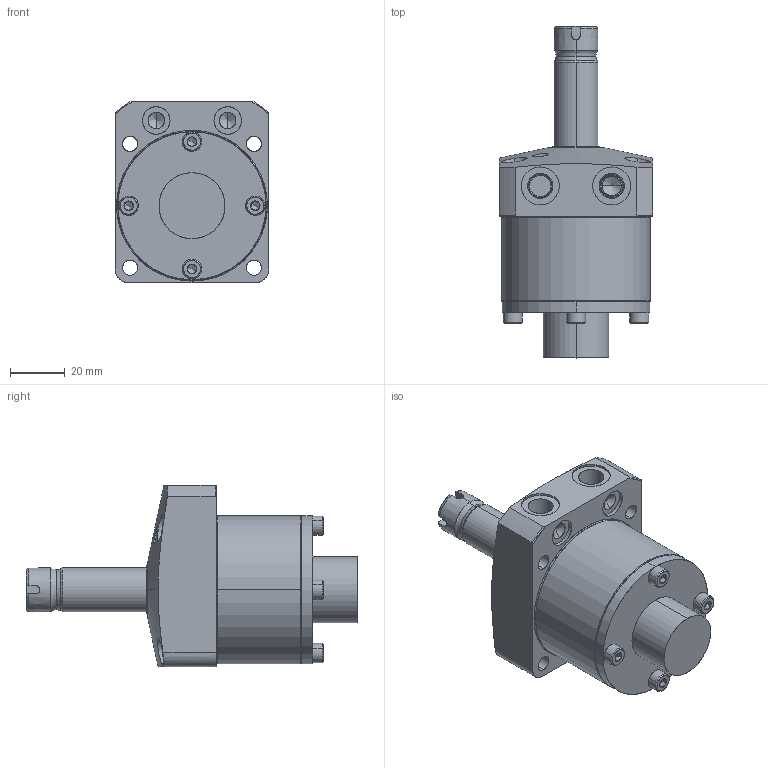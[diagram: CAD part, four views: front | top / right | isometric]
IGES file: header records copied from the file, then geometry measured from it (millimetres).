
Start section: SolidWorks IGES file using analytic representation for surfaces
Global section: file name: L:\電子カタログ-3D_IGES\WHA0400-2AR-F.igs; native system: SolidWorks 2009; preprocessor: SolidWorks 2009; author: D211; date: 100416.112925; units: millimetre
Bounding box: 56 x 120.7 x 66 mm (x, y, z)
Surface area: 32964.1 mm2 (no closed solid volume)
Topology: 0 solids, 0 shells, 276 faces, 4465 edges, 4451 vertices
Faces by surface type: revolution 171, bspline 105
